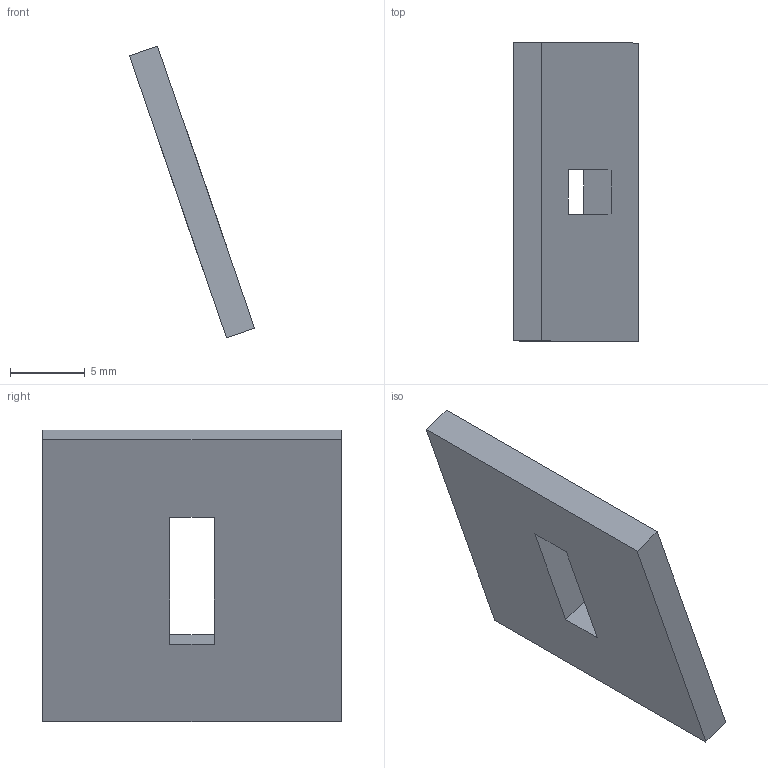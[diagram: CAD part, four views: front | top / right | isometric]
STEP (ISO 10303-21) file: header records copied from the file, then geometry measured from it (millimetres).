
FILE_DESCRIPTION(('STEP AP214'),'1');
FILE_NAME('tmp0.STEP','2026-06-08T18:21:05',(' '),(' '),'Spatial InterOp 3D',' ',' ');
FILE_SCHEMA(('AUTOMOTIVE_DESIGN { 1 0 10303 214 1 1 1 1 }'));
Length unit declared in the file: millimetre
Products named in the file (1): 1
Bounding box: 8.4 x 20 x 19.56 mm (x, y, z)
Volume: 746 mm3; surface area: 954 mm2
Topology: 1 solids, 1 shells, 10 faces, 24 edges, 16 vertices
Faces by surface type: plane 10
Entity records: 317 total; most frequent: CARTESIAN_POINT 51, ORIENTED_EDGE 48, DIRECTION 46, EDGE_CURVE 24, LINE 24, VECTOR 24, VERTEX_POINT 16, EDGE_LOOP 12
